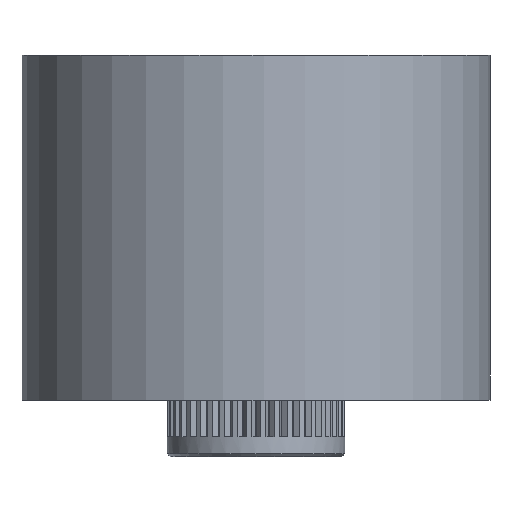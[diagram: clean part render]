
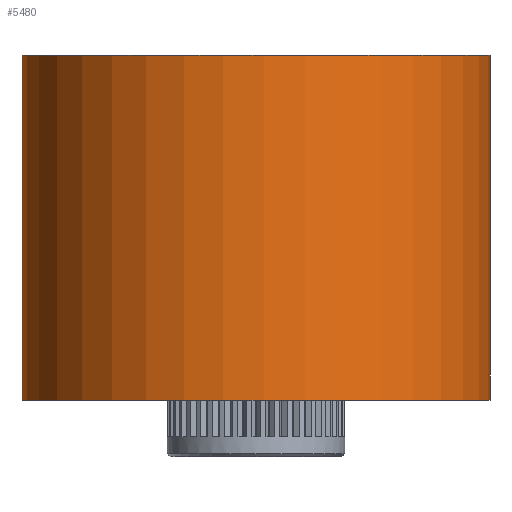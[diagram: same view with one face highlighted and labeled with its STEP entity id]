
A CAD part, front view. The second image highlights one B-rep face of the part: STEP entity #5480.
In plain terms, the highlighted cylindrical face has radius 10.5 mm (diameter 21 mm), a full revolution.
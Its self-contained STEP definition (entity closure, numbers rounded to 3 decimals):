
#5453=CARTESIAN_POINT('',(0.,0.0,-1.177));
#5454=DIRECTION('',(0.0,0.0,1.0));
#5455=DIRECTION('',(-0.99,0.139,0.0));
#5456=AXIS2_PLACEMENT_3D('',#5453,#5454,#5455);
#5457=CYLINDRICAL_SURFACE('',#5456,10.5);
#5458=CARTESIAN_POINT('',(10.398,-1.459,-4.064));
#5459=VERTEX_POINT('',#5458);
#5460=CARTESIAN_POINT('',(0.,0.0,-4.064));
#5461=DIRECTION('',(0.0,0.0,1.0));
#5462=DIRECTION('',(-0.99,0.139,0.0));
#5463=AXIS2_PLACEMENT_3D('',#5460,#5461,#5462);
#5464=CIRCLE('',#5463,10.5);
#5465=EDGE_CURVE('',#5459,#5459,#5464,.F.);
#5466=ORIENTED_EDGE('',*,*,#5465,.F.);
#5467=EDGE_LOOP('',(#5466));
#5468=FACE_OUTER_BOUND('',#5467,.T.);
#5469=CARTESIAN_POINT('',(10.398,-1.459,11.396));
#5470=VERTEX_POINT('',#5469);
#5471=CARTESIAN_POINT('',(0.,0.0,11.396));
#5472=DIRECTION('',(0.0,0.0,1.0));
#5473=DIRECTION('',(-0.99,0.139,0.0));
#5474=AXIS2_PLACEMENT_3D('',#5471,#5472,#5473);
#5475=CIRCLE('',#5474,10.5);
#5476=EDGE_CURVE('',#5470,#5470,#5475,.F.);
#5477=ORIENTED_EDGE('',*,*,#5476,.T.);
#5478=EDGE_LOOP('',(#5477));
#5479=FACE_BOUND('',#5478,.T.);
#5480=ADVANCED_FACE('',(#5468,#5479),#5457,.T.);
